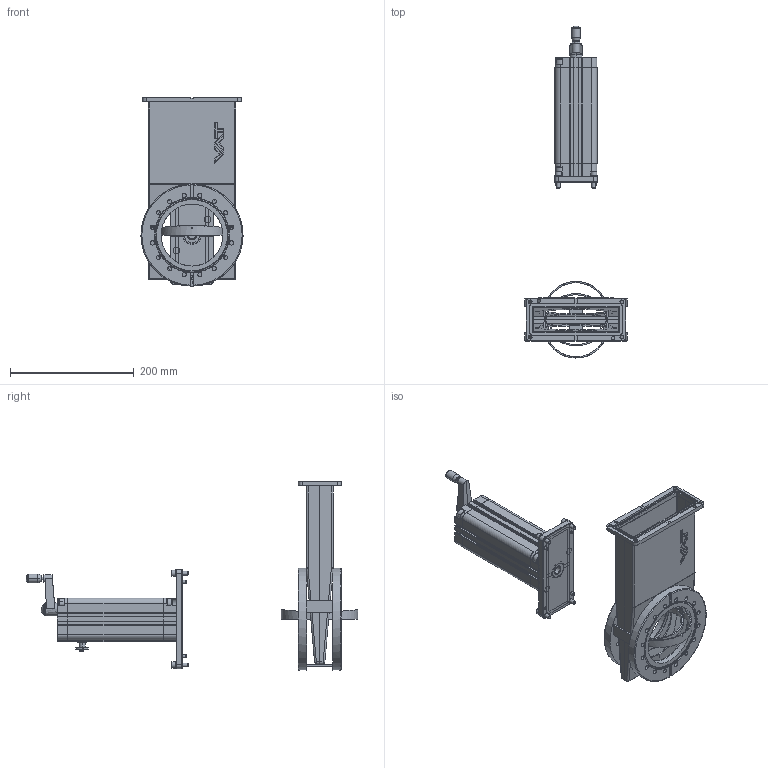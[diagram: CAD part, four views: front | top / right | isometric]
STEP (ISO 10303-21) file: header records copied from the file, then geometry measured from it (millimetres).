
FILE_DESCRIPTION(/* description */ (''),/* implementation_level */ '2;1');
FILE_NAME(/* name */ '1034454452_203.stp',/* time_stamp */ '2013-09-10T11:57:36+02:00',/* author */ (''),/* organization */ (''),/* preprocessor_version */ 'ST-DEVELOPER v11',/* originating_system */ 'SIEMENS PLM Software NX 7.5',/* authorisation */ '');
FILE_SCHEMA (('AP203_CONFIGURATION_CONTROLLED_3D_DESIGN_OF_MECHANICAL_PARTS_AND_ASSEMBLIES_MIM_LF'));
Length unit declared in the file: millimetre
Products named in the file (30): 307121.7; 251261.12_17918ID; 251261.12_17908ID; 251259.6_17910ID; 251262.4; 312601.1; N-6092-118.1; 251086.3; 301626.1; 342971.1; 343006.1; 441927; 218189; n-6195-408; n-6134-408; 260826.1; 260719.2; 260722.6; 260718.3; 250214.4; 259597.1; 259432.1; 332680.2; 301646.1; 506498_MODELNX-ARRAGMNTGrundgehäuse_kpl_bearbeitet; 565538_MODEL; 317195.3; 251409.4; 343008.1; 477800
Assembly tree (45 placements, depth 4):
  477800
    301646.1
    332680.2
    259432.1
    259597.1  x4
    343008.1
      343006.1
      342971.1  x2
      301626.1
    251409.4
      251086.3
      N-6092-118.1  x2
    250214.4
    260718.3
    260722.6
    260719.2
    260826.1
    n-6134-408  x4
    n-6195-408
    218189  x4
    441927  x2
    317195.3
      312601.1  x2
      565538_MODEL  x2
        251259.6_17910ID
      251262.4  x3
      506498_MODELNX-ARRAGMNTGrundgehäuse_kpl_bearbeitet
        251261.12_17908ID
        251261.12_17918ID
        307121.7
Bounding box: 164.8 x 535.95 x 303.9 mm (x, y, z)
Volume: 1171816.1 mm3; surface area: 518107.1 mm2
Topology: 48 solids, 48 shells, 1534 faces, 3968 edges, 2599 vertices
Faces by surface type: plane 844, cylinder 419, revolution 94, cone 73, extrusion 48, torus 24, bspline 20, sphere 12
Full cylindrical faces by diameter (mm): 2.2 x1, 3.17 x1, 4 x2, 4.96 x4, 4.976 x2, 4.985 x1, 5 x8, 5.124 x2, 5.22 x4, 5.3 x1, 6 x12, 6.4 x4, 6.5 x10, 6.8 x32, 10 x4, 10.008 x1, 10.4 x4, 11 x6, 11.5 x4, 12 x2, 14 x3, 15 x1, 15.2 x1, 16 x1, 16.2 x1, 21.976 x1, 23 x1, 25.345 x1, 30.012 x1, 30.03 x1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
Entity records: 42898 total; most frequent: CARTESIAN_POINT 8441, ORIENTED_EDGE 5824, DIRECTION 5751, EDGE_CURVE 2912, VERTEX_POINT 1992, AXIS2_PLACEMENT_3D 1934, VECTOR 1831, LINE 1785
